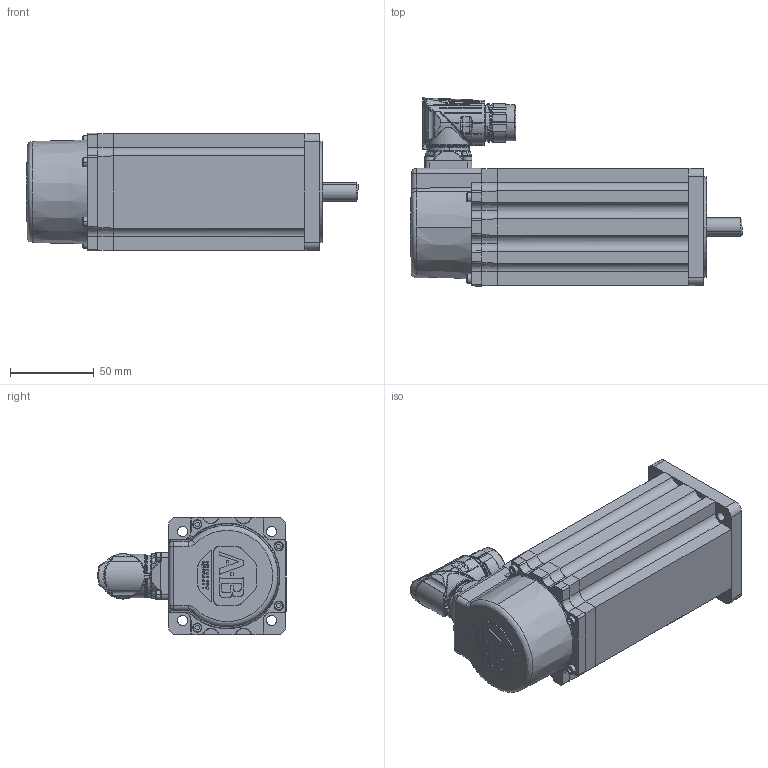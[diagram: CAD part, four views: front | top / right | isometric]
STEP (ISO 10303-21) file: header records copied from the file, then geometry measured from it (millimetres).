
FILE_DESCRIPTION (( 'STEP AP214' ), '1' );
FILE_NAME ('Rockwell Automation-$PARTNUMBER.STEP', '2014-02-18T14:40:44', ( 'Windows User' ), ( '' ), 'SwSTEP 2.0', 'SolidWorks 2014', '' );
FILE_SCHEMA (( 'AUTOMOTIVE_DESIGN' ));
Length unit declared in the file: inch
Products named in the file (26): Rockwell Automation-$PARTNUMBER_Rockwell Automation-VPL-x0753x-xKx2xx_10000213398_ANY_1; Rockwell Automation-$PARTNUMBER_Rockwell Automation-VPL-x0753x-xKx2xx_PRT0001; Rockwell Automation-$PARTNUMBER_Rockwell Automation-VPL-x0753x-xKx2xx_vpl-middle-075_0753-k; Rockwell Automation-$PARTNUMBER_Rockwell Automation-VPL-x0753x-xKx2xx_10000220495_ASM_1_ANY_ASM; Rockwell Automation-$PARTNUMBER_Rockwell Automation-VPL-x0753x-xKx2xx_10000206533_AF0_ANY; Rockwell Automation-$PARTNUMBER; Rockwell Automation-$PARTNUMBER_Rockwell Automation-VPL-x0753x-xKx2xx_10000220495_ASM_ANY; Rockwell Automation-$PARTNUMBER_Rockwell Automation-VPL-x0753x-xKx2xx_10000205606_AF31_ANY; Rockwell Automation-$PARTNUMBER_Rockwell Automation-VPL-x0753x-xKx2xx_10000218021_ANY; Rockwell Automation-$PARTNUMBER_Rockwell Automation-VPL-x0753x-xKx2xx_91290A115_ANY; Rockwell Automation-$PARTNUMBER_Rockwell Automation-VPL-x0753x-xKx2xx_M23_Connector; Rockwell Automation-$PARTNUMBER_Rockwell Automation-VPL-x0753x-xKx2xx_10000014326-M23_ASM; Rockwell Automation-$PARTNUMBER_Rockwell Automation-VPL-x0753x-xKx2xx_10000014326-1; Rockwell Automation-$PARTNUMBER_Rockwell Automation-VPL-x0753x-xKx2xx_10000014325-1; Rockwell Automation-$PARTNUMBER_Rockwell Automation-VPL-x0753x-xKx2xx_10000540833; Rockwell Automation-$PARTNUMBER_Rockwell Automation-VPL-x0753x-xKx2xx_FRONT_without key_1; Rockwell Automation-$PARTNUMBER_Rockwell Automation-VPL-x0753x-xKx2xx_FRONT_1; Rockwell Automation-$PARTNUMBER_Rockwell Automation-VPL-x0753x-xKx2xx_tab; Rockwell Automation-$PARTNUMBER_Rockwell Automation-VPL-x0753x-xKx2xx_10000169222_ANY_1; Rockwell Automation-$PARTNUMBER_Rockwell Automation-VPL-x0753x-xKx2xx_vpl-075_0753_without key; Rockwell Automation-$PARTNUMBER_Rockwell Automation-VPL-x0753x-xKx2xx_10000206536_ASM_ANY_ASM_1; Rockwell Automation-$PARTNUMBER_Rockwell Automation-VPL-x0753x-xKx2xx_without key_3_Shaft_K_3_2; Rockwell Automation-$PARTNUMBER_Rockwell Automation-VPL-x0753x-xKx2xx_10000206535_AF0_ANY_1; Rockwell Automation-$PARTNUMBER_Rockwell Automation-VPL-x0753x-xKx2xx_REAR_ASM_ANY_ASM; Rockwell Automation-$PARTNUMBER_Rockwell Automation-VPL-x0753x-xKx2xx_10000210273_AF2_ANY_1; Rockwell Automation-$PARTNUMBER_Rockwell Automation-VPL-x0753x-xKx2xx_PRT0002
Assembly tree (35 placements, depth 6):
  Rockwell Automation-$PARTNUMBER
    Rockwell Automation-$PARTNUMBER_Rockwell Automation-VPL-x0753x-xKx2xx_vpl-075_0753_without key
      Rockwell Automation-$PARTNUMBER_Rockwell Automation-VPL-x0753x-xKx2xx_vpl-middle-075_0753-k
      Rockwell Automation-$PARTNUMBER_Rockwell Automation-VPL-x0753x-xKx2xx_FRONT_without key_1
        Rockwell Automation-$PARTNUMBER_Rockwell Automation-VPL-x0753x-xKx2xx_FRONT_1
          Rockwell Automation-$PARTNUMBER_Rockwell Automation-VPL-x0753x-xKx2xx_10000213398_ANY_1
          Rockwell Automation-$PARTNUMBER_Rockwell Automation-VPL-x0753x-xKx2xx_10000206536_ASM_ANY_ASM_1
            Rockwell Automation-$PARTNUMBER_Rockwell Automation-VPL-x0753x-xKx2xx_10000210273_AF2_ANY_1
            Rockwell Automation-$PARTNUMBER_Rockwell Automation-VPL-x0753x-xKx2xx_10000206535_AF0_ANY_1
          Rockwell Automation-$PARTNUMBER_Rockwell Automation-VPL-x0753x-xKx2xx_10000169222_ANY_1  x4
      Rockwell Automation-$PARTNUMBER_Rockwell Automation-VPL-x0753x-xKx2xx_REAR_ASM_ANY_ASM
        Rockwell Automation-$PARTNUMBER_Rockwell Automation-VPL-x0753x-xKx2xx_M23_Connector
          Rockwell Automation-$PARTNUMBER_Rockwell Automation-VPL-x0753x-xKx2xx_10000540833
          Rockwell Automation-$PARTNUMBER_Rockwell Automation-VPL-x0753x-xKx2xx_10000014325-1
          Rockwell Automation-$PARTNUMBER_Rockwell Automation-VPL-x0753x-xKx2xx_10000014326-M23_ASM
            Rockwell Automation-$PARTNUMBER_Rockwell Automation-VPL-x0753x-xKx2xx_10000014326-1
        Rockwell Automation-$PARTNUMBER_Rockwell Automation-VPL-x0753x-xKx2xx_91290A115_ANY  x4
        Rockwell Automation-$PARTNUMBER_Rockwell Automation-VPL-x0753x-xKx2xx_10000218021_ANY  x2
        Rockwell Automation-$PARTNUMBER_Rockwell Automation-VPL-x0753x-xKx2xx_10000220495_ASM_1_ANY_ASM
          Rockwell Automation-$PARTNUMBER_Rockwell Automation-VPL-x0753x-xKx2xx_10000205606_AF31_ANY
          Rockwell Automation-$PARTNUMBER_Rockwell Automation-VPL-x0753x-xKx2xx_10000220495_ASM_ANY  x2
          Rockwell Automation-$PARTNUMBER_Rockwell Automation-VPL-x0753x-xKx2xx_10000206533_AF0_ANY
        Rockwell Automation-$PARTNUMBER_Rockwell Automation-VPL-x0753x-xKx2xx_PRT0001  x4
        Rockwell Automation-$PARTNUMBER_Rockwell Automation-VPL-x0753x-xKx2xx_PRT0002
      Rockwell Automation-$PARTNUMBER_Rockwell Automation-VPL-x0753x-xKx2xx_without key_3_Shaft_K_3_2
  Rockwell Automation-$PARTNUMBER_Rockwell Automation-VPL-x0753x-xKx2xx_tab
Bounding box: 197.9 x 112.23 x 70.31 mm (x, y, z)
Volume: 361654.6 mm3; surface area: 181322.2 mm2
Topology: 21 solids, 41 shells, 3121 faces, 8572 edges, 5551 vertices
Faces by surface type: cylinder 1014, plane 935, bspline 787, cone 383, torus 2
Entity records: 160150 total; most frequent: CARTESIAN_POINT 87141, ORIENTED_EDGE 14393, DIRECTION 8507, EDGE_CURVE 7215, VERTEX_POINT 4734, B_SPLINE_CURVE_WITH_KNOTS 3657, AXIS2_PLACEMENT_3D 3190, EDGE_LOOP 2765
